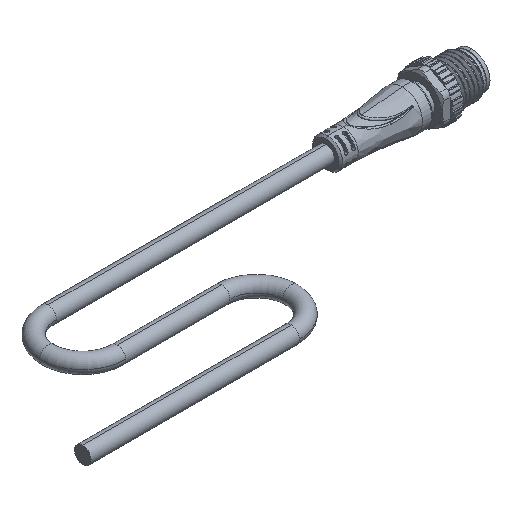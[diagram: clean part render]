
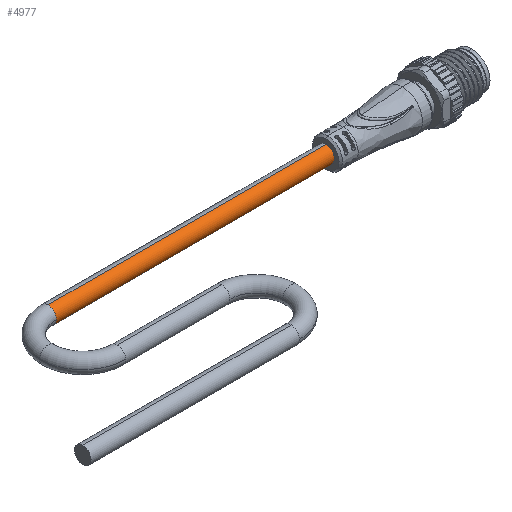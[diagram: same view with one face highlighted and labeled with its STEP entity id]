
A CAD part, isometric view. The second image highlights one B-rep face of the part: STEP entity #4977.
In plain terms, the highlighted cylindrical face has radius 2.4 mm (diameter 4.8 mm), a partial arc.
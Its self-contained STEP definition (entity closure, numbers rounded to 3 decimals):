
#956 = CIRCLE ( 'NONE', #26709, 2.4 ) ;
#1525 = CYLINDRICAL_SURFACE ( 'NONE', #29988, 2.4 ) ;
#1578 = ORIENTED_EDGE ( 'NONE', *, *, #23434, .T. ) ;
#1652 = VERTEX_POINT ( 'NONE', #26416 ) ;
#3133 = AXIS2_PLACEMENT_3D ( 'NONE', #9521, #4187, #19019 ) ;
#3837 = VECTOR ( 'NONE', #12912, 1000. ) ;
#4187 = DIRECTION ( 'NONE',  ( 0., 0., -1. ) ) ;
#4977 = ADVANCED_FACE ( 'NONE', ( #23150 ), #1525, .T. ) ;
#5650 = CARTESIAN_POINT ( 'NONE',  ( 0., 37.6, 0. ) ) ;
#6276 = CARTESIAN_POINT ( 'NONE',  ( 2.4, 40., 0. ) ) ;
#6824 = DIRECTION ( 'NONE',  ( 0., 0., -1. ) ) ;
#6989 = EDGE_CURVE ( 'NONE', #9153, #20240, #25133, .T. ) ;
#8054 = VERTEX_POINT ( 'NONE', #5650 ) ;
#8664 = CIRCLE ( 'NONE', #3133, 2.4 ) ;
#8702 = CARTESIAN_POINT ( 'NONE',  ( -2.4, 40., 0. ) ) ;
#9153 = VERTEX_POINT ( 'NONE', #12787 ) ;
#9521 = CARTESIAN_POINT ( 'NONE',  ( 0., 40., 0. ) ) ;
#9538 = DIRECTION ( 'NONE',  ( 0., 0., -1. ) ) ;
#10687 = CARTESIAN_POINT ( 'NONE',  ( 2.4, 40., 0. ) ) ;
#12787 = CARTESIAN_POINT ( 'NONE',  ( -2.4, 40., 0. ) ) ;
#12912 = DIRECTION ( 'NONE',  ( 0., 0., -1. ) ) ;
#13460 = ORIENTED_EDGE ( 'NONE', *, *, #19191, .F. ) ;
#14492 = DIRECTION ( 'NONE',  ( -1., 0., 0. ) ) ;
#15740 = EDGE_CURVE ( 'NONE', #1652, #20240, #18388, .T. ) ;
#16356 = DIRECTION ( 'NONE',  ( -1., 0., 0. ) ) ;
#16871 = AXIS2_PLACEMENT_3D ( 'NONE', #21762, #17345, #14492 ) ;
#17345 = DIRECTION ( 'NONE',  ( 0., 0., -1. ) ) ;
#17822 = LINE ( 'NONE', #6276, #3837 ) ;
#18075 = EDGE_LOOP ( 'NONE', ( #13460, #21307, #1578, #19700, #25783 ) ) ;
#18388 = CIRCLE ( 'NONE', #16871, 2.4 ) ;
#18953 = CARTESIAN_POINT ( 'NONE',  ( -2.4, 40., -90. ) ) ;
#19019 = DIRECTION ( 'NONE',  ( -1., 0., 0. ) ) ;
#19191 = EDGE_CURVE ( 'NONE', #19753, #1652, #17822, .T. ) ;
#19700 = ORIENTED_EDGE ( 'NONE', *, *, #6989, .T. ) ;
#19753 = VERTEX_POINT ( 'NONE', #10687 ) ;
#20240 = VERTEX_POINT ( 'NONE', #18953 ) ;
#20798 = DIRECTION ( 'NONE',  ( 0., 0., -1. ) ) ;
#20994 = VECTOR ( 'NONE', #6824, 1000. ) ;
#21307 = ORIENTED_EDGE ( 'NONE', *, *, #28891, .T. ) ;
#21762 = CARTESIAN_POINT ( 'NONE',  ( 0., 40., -90. ) ) ;
#23150 = FACE_OUTER_BOUND ( 'NONE', #18075, .T. ) ;
#23434 = EDGE_CURVE ( 'NONE', #8054, #9153, #956, .T. ) ;
#25133 = LINE ( 'NONE', #8702, #20994 ) ;
#25783 = ORIENTED_EDGE ( 'NONE', *, *, #15740, .F. ) ;
#26416 = CARTESIAN_POINT ( 'NONE',  ( 2.4, 40., -90. ) ) ;
#26709 = AXIS2_PLACEMENT_3D ( 'NONE', #28845, #9538, #16356 ) ;
#27283 = CARTESIAN_POINT ( 'NONE',  ( 0., 40., 0. ) ) ;
#28076 = DIRECTION ( 'NONE',  ( -1., 0., 0. ) ) ;
#28845 = CARTESIAN_POINT ( 'NONE',  ( 0., 40., 0. ) ) ;
#28891 = EDGE_CURVE ( 'NONE', #19753, #8054, #8664, .T. ) ;
#29988 = AXIS2_PLACEMENT_3D ( 'NONE', #27283, #20798, #28076 ) ;
